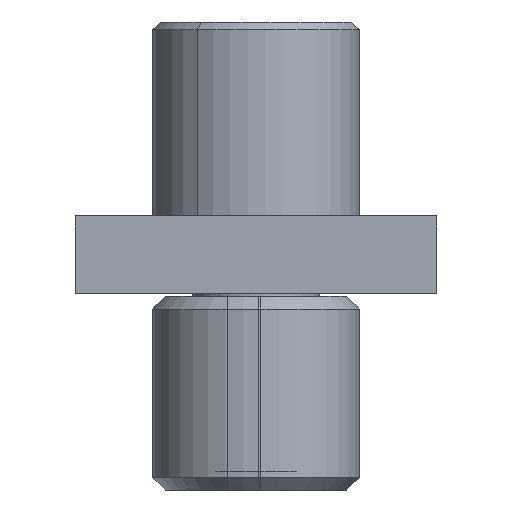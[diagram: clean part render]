
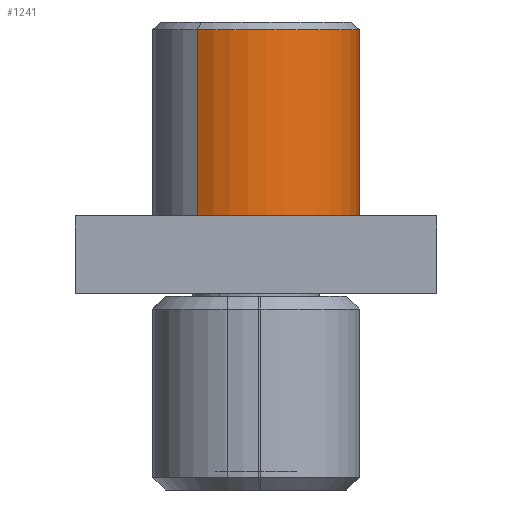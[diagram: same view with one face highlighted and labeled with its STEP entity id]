
A CAD part, left-side view. The second image highlights one B-rep face of the part: STEP entity #1241.
In plain terms, the highlighted cylindrical face has radius 4 mm (diameter 8 mm), a partial arc.
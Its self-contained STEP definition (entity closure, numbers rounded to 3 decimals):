
#10 = EDGE_CURVE ( 'NONE', #1225, #1236, #1077, .T. ) ;
#56 = CARTESIAN_POINT ( 'NONE',  ( 0., -4., -0.3 ) ) ;
#119 = EDGE_CURVE ( 'NONE', #464, #1225, #874, .T. ) ;
#121 = DIRECTION ( 'NONE',  ( 0., 1., 0. ) ) ;
#151 = VERTEX_POINT ( 'NONE', #608 ) ;
#158 = CARTESIAN_POINT ( 'NONE',  ( 0., 0., -18.1 ) ) ;
#161 = DIRECTION ( 'NONE',  ( 0., 1., 0. ) ) ;
#184 = DIRECTION ( 'NONE',  ( 0., 0., -1. ) ) ;
#423 = CIRCLE ( 'NONE', #1214, 4. ) ;
#437 = EDGE_CURVE ( 'NONE', #464, #151, #423, .T. ) ;
#452 = CYLINDRICAL_SURFACE ( 'NONE', #1182, 4. ) ;
#464 = VERTEX_POINT ( 'NONE', #56 ) ;
#467 = DIRECTION ( 'NONE',  ( 0., 1., 0. ) ) ;
#473 = FACE_OUTER_BOUND ( 'NONE', #731, .T. ) ;
#481 = CARTESIAN_POINT ( 'NONE',  ( 0., 0., -7.5 ) ) ;
#498 = ORIENTED_EDGE ( 'NONE', *, *, #10, .F. ) ;
#534 = CARTESIAN_POINT ( 'NONE',  ( 0., 0., -0.3 ) ) ;
#578 = DIRECTION ( 'NONE',  ( 0., 0., -1. ) ) ;
#608 = CARTESIAN_POINT ( 'NONE',  ( 0., 4., -0.3 ) ) ;
#624 = CARTESIAN_POINT ( 'NONE',  ( 0., -4., -7.5 ) ) ;
#652 = DIRECTION ( 'NONE',  ( 0., 0., -1. ) ) ;
#721 = CARTESIAN_POINT ( 'NONE',  ( 0., 4., -7.5 ) ) ;
#725 = DIRECTION ( 'NONE',  ( 0., 0., -1. ) ) ;
#731 = EDGE_LOOP ( 'NONE', ( #805, #1099, #996, #498 ) ) ;
#805 = ORIENTED_EDGE ( 'NONE', *, *, #119, .F. ) ;
#811 = CARTESIAN_POINT ( 'NONE',  ( 0., -4., -18.1 ) ) ;
#815 = VECTOR ( 'NONE', #184, 1000. ) ;
#866 = AXIS2_PLACEMENT_3D ( 'NONE', #481, #725, #467 ) ;
#874 = LINE ( 'NONE', #811, #815 ) ;
#888 = EDGE_CURVE ( 'NONE', #151, #1236, #1164, .T. ) ;
#981 = CARTESIAN_POINT ( 'NONE',  ( 0., 4., -18.1 ) ) ;
#986 = DIRECTION ( 'NONE',  ( 0., 0., -1. ) ) ;
#996 = ORIENTED_EDGE ( 'NONE', *, *, #888, .T. ) ;
#1077 = CIRCLE ( 'NONE', #866, 4. ) ;
#1099 = ORIENTED_EDGE ( 'NONE', *, *, #437, .T. ) ;
#1106 = VECTOR ( 'NONE', #986, 1000. ) ;
#1164 = LINE ( 'NONE', #981, #1106 ) ;
#1182 = AXIS2_PLACEMENT_3D ( 'NONE', #158, #652, #161 ) ;
#1214 = AXIS2_PLACEMENT_3D ( 'NONE', #534, #578, #121 ) ;
#1225 = VERTEX_POINT ( 'NONE', #624 ) ;
#1236 = VERTEX_POINT ( 'NONE', #721 ) ;
#1241 = ADVANCED_FACE ( 'NONE', ( #473 ), #452, .T. ) ;
